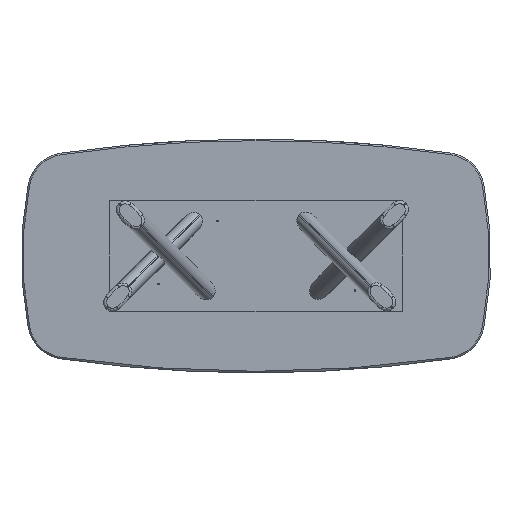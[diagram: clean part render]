
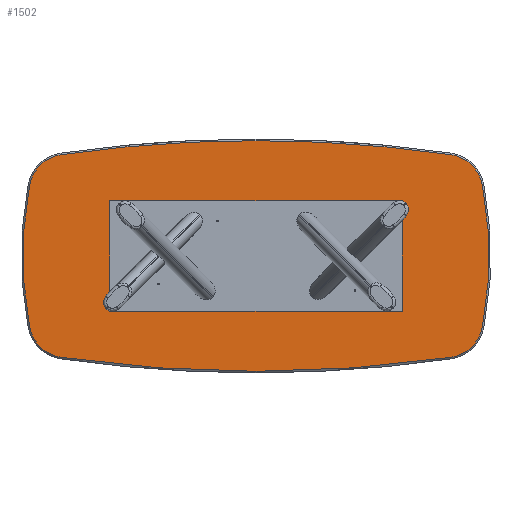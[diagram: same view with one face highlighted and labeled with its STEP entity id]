
A CAD part, front view. The second image highlights one B-rep face of the part: STEP entity #1502.
In plain terms, the highlighted planar face has unit normal (0, -1, 0).
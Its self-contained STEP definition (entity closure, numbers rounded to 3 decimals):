
#62 = AXIS2_PLACEMENT_3D ( 'NONE', #3924, #3001, #4446 ) ;
#68 = VERTEX_POINT ( 'NONE', #1844 ) ;
#106 = DIRECTION ( 'NONE',  ( 0., -1., 0. ) ) ;
#129 = CARTESIAN_POINT ( 'NONE',  ( 963.472, 50., 325.885 ) ) ;
#145 = CARTESIAN_POINT ( 'NONE',  ( -481.736, 50., -3014.558 ) ) ;
#189 = DIRECTION ( 'NONE',  ( 0., -1., 0. ) ) ;
#217 = ORIENTED_EDGE ( 'NONE', *, *, #257, .T. ) ;
#218 = CIRCLE ( 'NONE', #436, 6942. ) ;
#240 = CARTESIAN_POINT ( 'NONE',  ( -1151.911, 50., -362.691 ) ) ;
#257 = EDGE_CURVE ( 'NONE', #2903, #4316, #4246, .T. ) ;
#280 = CARTESIAN_POINT ( 'NONE',  ( -705., 50., 0. ) ) ;
#320 = DIRECTION ( 'NONE',  ( 0., 0., 1. ) ) ;
#416 = CARTESIAN_POINT ( 'NONE',  ( 0., 50., 6355. ) ) ;
#418 = ORIENTED_EDGE ( 'NONE', *, *, #3607, .T. ) ;
#436 = AXIS2_PLACEMENT_3D ( 'NONE', #730, #1078, #320 ) ;
#506 = CIRCLE ( 'NONE', #1106, 192. ) ;
#673 = CIRCLE ( 'NONE', #3800, 192. ) ;
#706 = EDGE_CURVE ( 'NONE', #4186, #4317, #506, .T. ) ;
#728 = AXIS2_PLACEMENT_3D ( 'NONE', #1002, #4618, #760 ) ;
#730 = CARTESIAN_POINT ( 'NONE',  ( 0., 50., -6355. ) ) ;
#760 = DIRECTION ( 'NONE',  ( 0., 0., 1. ) ) ;
#906 = CIRCLE ( 'NONE', #62, 6942. ) ;
#1002 = CARTESIAN_POINT ( 'NONE',  ( 705., 50., 0. ) ) ;
#1022 = AXIS2_PLACEMENT_3D ( 'NONE', #145, #3431, #1605 ) ;
#1078 = DIRECTION ( 'NONE',  ( 0., -1., 0. ) ) ;
#1106 = AXIS2_PLACEMENT_3D ( 'NONE', #4078, #2388, #1233 ) ;
#1142 = CARTESIAN_POINT ( 'NONE',  ( 990.878, 50., -515.919 ) ) ;
#1165 = DIRECTION ( 'NONE',  ( 0., 0., 1. ) ) ;
#1233 = DIRECTION ( 'NONE',  ( 0., 0., 1. ) ) ;
#1272 = EDGE_CURVE ( 'NONE', #4316, #3592, #3413, .T. ) ;
#1305 = ORIENTED_EDGE ( 'NONE', *, *, #3819, .T. ) ;
#1371 = CARTESIAN_POINT ( 'NONE',  ( -963.472, 50., -325.885 ) ) ;
#1497 = AXIS2_PLACEMENT_3D ( 'NONE', #129, #106, #3811 ) ;
#1502 = ADVANCED_FACE ( 'NONE', ( #2271 ), #1957, .F. ) ;
#1602 = EDGE_CURVE ( 'NONE', #3351, #4186, #4235, .T. ) ;
#1605 = DIRECTION ( 'NONE',  ( 0., 0., 1. ) ) ;
#1710 = CARTESIAN_POINT ( 'NONE',  ( 990.878, 50., 515.919 ) ) ;
#1751 = ORIENTED_EDGE ( 'NONE', *, *, #706, .T. ) ;
#1782 = EDGE_LOOP ( 'NONE', ( #3963, #2126, #1305, #217, #3503, #2478, #2375, #1751, #418 ) ) ;
#1844 = CARTESIAN_POINT ( 'NONE',  ( 1151.911, 50., 362.691 ) ) ;
#1926 = DIRECTION ( 'NONE',  ( 0., -1., 0. ) ) ;
#1957 = PLANE ( 'NONE',  #1022 ) ;
#1984 = CARTESIAN_POINT ( 'NONE',  ( 1151.911, 50., -362.691 ) ) ;
#2024 = VERTEX_POINT ( 'NONE', #1710 ) ;
#2045 = DIRECTION ( 'NONE',  ( 0., -1., 0. ) ) ;
#2126 = ORIENTED_EDGE ( 'NONE', *, *, #4269, .T. ) ;
#2243 = CARTESIAN_POINT ( 'NONE',  ( -990.878, 50., 515.919 ) ) ;
#2271 = FACE_OUTER_BOUND ( 'NONE', #1782, .T. ) ;
#2375 = ORIENTED_EDGE ( 'NONE', *, *, #1602, .T. ) ;
#2388 = DIRECTION ( 'NONE',  ( 0., -1., 0. ) ) ;
#2478 = ORIENTED_EDGE ( 'NONE', *, *, #4143, .T. ) ;
#2497 = AXIS2_PLACEMENT_3D ( 'NONE', #280, #189, #2798 ) ;
#2541 = AXIS2_PLACEMENT_3D ( 'NONE', #416, #1926, #3715 ) ;
#2771 = DIRECTION ( 'NONE',  ( 0., 0., 1. ) ) ;
#2798 = DIRECTION ( 'NONE',  ( 0., 0., 1. ) ) ;
#2829 = EDGE_CURVE ( 'NONE', #68, #2024, #2956, .T. ) ;
#2850 = CARTESIAN_POINT ( 'NONE',  ( -990.878, 50., -515.919 ) ) ;
#2903 = VERTEX_POINT ( 'NONE', #2243 ) ;
#2956 = CIRCLE ( 'NONE', #1497, 192. ) ;
#3001 = DIRECTION ( 'NONE',  ( 0., -1., 0. ) ) ;
#3351 = VERTEX_POINT ( 'NONE', #2850 ) ;
#3413 = CIRCLE ( 'NONE', #728, 1892. ) ;
#3431 = DIRECTION ( 'NONE',  ( 0., 1., 0. ) ) ;
#3503 = ORIENTED_EDGE ( 'NONE', *, *, #1272, .T. ) ;
#3506 = CARTESIAN_POINT ( 'NONE',  ( 0., 50., 587. ) ) ;
#3592 = VERTEX_POINT ( 'NONE', #240 ) ;
#3607 = EDGE_CURVE ( 'NONE', #4317, #68, #4568, .T. ) ;
#3715 = DIRECTION ( 'NONE',  ( 0., 0., 1. ) ) ;
#3800 = AXIS2_PLACEMENT_3D ( 'NONE', #1371, #3972, #1165 ) ;
#3811 = DIRECTION ( 'NONE',  ( 0., 0., 1. ) ) ;
#3819 = EDGE_CURVE ( 'NONE', #4550, #2903, #218, .T. ) ;
#3854 = CARTESIAN_POINT ( 'NONE',  ( -963.472, 50., 325.885 ) ) ;
#3878 = AXIS2_PLACEMENT_3D ( 'NONE', #3854, #2045, #2771 ) ;
#3924 = CARTESIAN_POINT ( 'NONE',  ( 0., 50., -6355. ) ) ;
#3963 = ORIENTED_EDGE ( 'NONE', *, *, #2829, .T. ) ;
#3972 = DIRECTION ( 'NONE',  ( 0., -1., 0. ) ) ;
#4078 = CARTESIAN_POINT ( 'NONE',  ( 963.472, 50., -325.885 ) ) ;
#4141 = CARTESIAN_POINT ( 'NONE',  ( -1151.911, 50., 362.691 ) ) ;
#4143 = EDGE_CURVE ( 'NONE', #3592, #3351, #673, .T. ) ;
#4186 = VERTEX_POINT ( 'NONE', #1142 ) ;
#4235 = CIRCLE ( 'NONE', #2541, 6942. ) ;
#4246 = CIRCLE ( 'NONE', #3878, 192. ) ;
#4269 = EDGE_CURVE ( 'NONE', #2024, #4550, #906, .T. ) ;
#4316 = VERTEX_POINT ( 'NONE', #4141 ) ;
#4317 = VERTEX_POINT ( 'NONE', #1984 ) ;
#4446 = DIRECTION ( 'NONE',  ( 0., 0., 1. ) ) ;
#4550 = VERTEX_POINT ( 'NONE', #3506 ) ;
#4568 = CIRCLE ( 'NONE', #2497, 1892. ) ;
#4618 = DIRECTION ( 'NONE',  ( 0., -1., 0. ) ) ;
